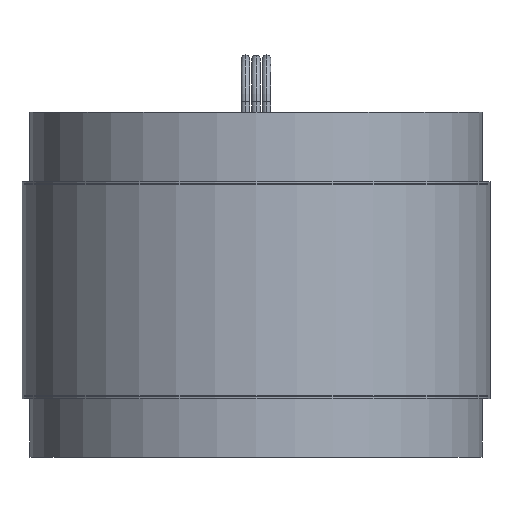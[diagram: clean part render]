
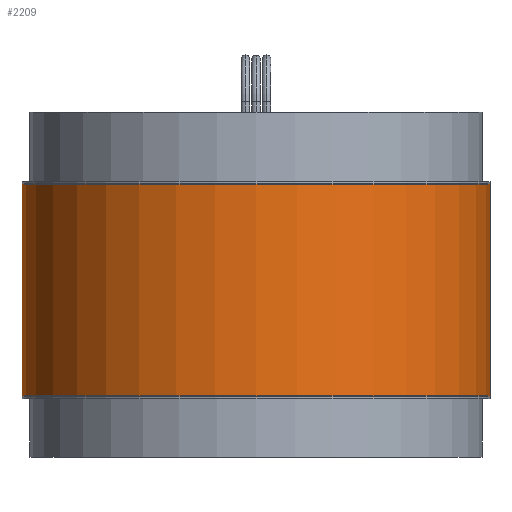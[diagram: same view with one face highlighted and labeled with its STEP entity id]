
A CAD part, front view. The second image highlights one B-rep face of the part: STEP entity #2209.
In plain terms, the highlighted cylindrical face has radius 55.88 mm (diameter 111.76 mm), a partial arc.
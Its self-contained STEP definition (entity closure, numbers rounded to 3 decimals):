
#4 = VECTOR ( 'NONE', #713, 1000. ) ;
#47 = VERTEX_POINT ( 'NONE', #95 ) ;
#95 = CARTESIAN_POINT ( 'NONE',  ( -55.88, 0., 25.222 ) ) ;
#168 = ORIENTED_EDGE ( 'NONE', *, *, #2174, .F. ) ;
#198 = FACE_OUTER_BOUND ( 'NONE', #2147, .T. ) ;
#303 = CARTESIAN_POINT ( 'NONE',  ( 55.88, 0., 25.222 ) ) ;
#333 = AXIS2_PLACEMENT_3D ( 'NONE', #2114, #1019, #2333 ) ;
#386 = EDGE_CURVE ( 'NONE', #2006, #1145, #725, .T. ) ;
#397 = AXIS2_PLACEMENT_3D ( 'NONE', #632, #1214, #2158 ) ;
#404 = DIRECTION ( 'NONE',  ( 0., 0., 1. ) ) ;
#462 = ORIENTED_EDGE ( 'NONE', *, *, #386, .T. ) ;
#575 = CARTESIAN_POINT ( 'NONE',  ( 0., 0., -25.908 ) ) ;
#632 = CARTESIAN_POINT ( 'NONE',  ( 0., 0., 25.222 ) ) ;
#677 = EDGE_CURVE ( 'NONE', #2140, #2006, #1148, .T. ) ;
#713 = DIRECTION ( 'NONE',  ( 0., 0., 1. ) ) ;
#725 = LINE ( 'NONE', #1952, #997 ) ;
#997 = VECTOR ( 'NONE', #1346, 1000. ) ;
#1004 = EDGE_CURVE ( 'NONE', #47, #1145, #1968, .T. ) ;
#1019 = DIRECTION ( 'NONE',  ( 0., 0., 1. ) ) ;
#1145 = VERTEX_POINT ( 'NONE', #303 ) ;
#1148 = CIRCLE ( 'NONE', #333, 55.88 ) ;
#1214 = DIRECTION ( 'NONE',  ( 0., 0., 1. ) ) ;
#1256 = LINE ( 'NONE', #2253, #4 ) ;
#1339 = ORIENTED_EDGE ( 'NONE', *, *, #1004, .F. ) ;
#1346 = DIRECTION ( 'NONE',  ( 0., 0., 1. ) ) ;
#1394 = CARTESIAN_POINT ( 'NONE',  ( 55.88, 0., -25.222 ) ) ;
#1444 = CYLINDRICAL_SURFACE ( 'NONE', #1514, 55.88 ) ;
#1514 = AXIS2_PLACEMENT_3D ( 'NONE', #575, #404, #1718 ) ;
#1718 = DIRECTION ( 'NONE',  ( 1., 0., 0. ) ) ;
#1895 = ORIENTED_EDGE ( 'NONE', *, *, #677, .T. ) ;
#1952 = CARTESIAN_POINT ( 'NONE',  ( 55.88, 0., -25.908 ) ) ;
#1968 = CIRCLE ( 'NONE', #397, 55.88 ) ;
#2006 = VERTEX_POINT ( 'NONE', #1394 ) ;
#2114 = CARTESIAN_POINT ( 'NONE',  ( 0., 0., -25.222 ) ) ;
#2140 = VERTEX_POINT ( 'NONE', #2417 ) ;
#2147 = EDGE_LOOP ( 'NONE', ( #168, #1895, #462, #1339 ) ) ;
#2158 = DIRECTION ( 'NONE',  ( 1., 0., 0. ) ) ;
#2174 = EDGE_CURVE ( 'NONE', #2140, #47, #1256, .T. ) ;
#2209 = ADVANCED_FACE ( 'NONE', ( #198 ), #1444, .T. ) ;
#2253 = CARTESIAN_POINT ( 'NONE',  ( -55.88, 0., -25.908 ) ) ;
#2333 = DIRECTION ( 'NONE',  ( 1., 0., 0. ) ) ;
#2417 = CARTESIAN_POINT ( 'NONE',  ( -55.88, 0., -25.222 ) ) ;
